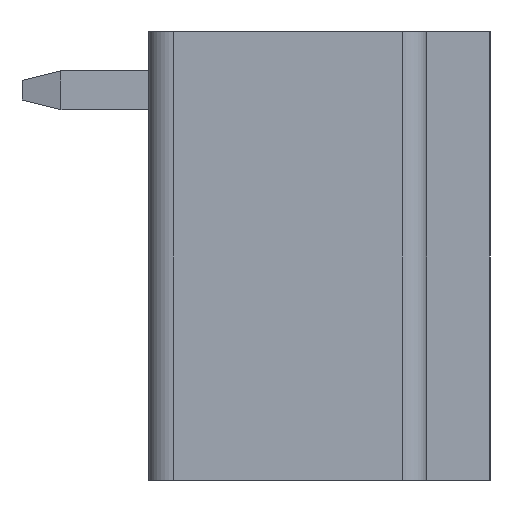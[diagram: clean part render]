
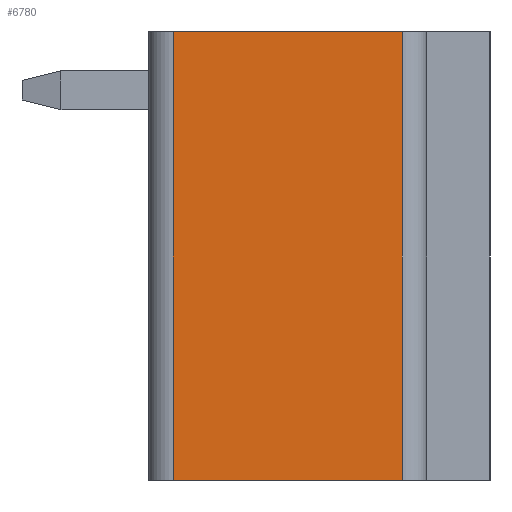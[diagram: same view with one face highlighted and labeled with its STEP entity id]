
A CAD part, left-side view. The second image highlights one B-rep face of the part: STEP entity #6780.
In plain terms, the highlighted planar face has unit normal (-1, 0, 0).
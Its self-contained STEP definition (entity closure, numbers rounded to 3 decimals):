
#6780 = ADVANCED_FACE('',(#6781),#6795,.T.);
#6781 = FACE_BOUND('',#6782,.T.);
#6782 = EDGE_LOOP('',(#6783,#6806,#6822,#6838));
#6783 = ORIENTED_EDGE('',*,*,#6784,.F.);
#6784 = EDGE_CURVE('',#6785,#6787,#6789,.T.);
#6785 = VERTEX_POINT('',#6786);
#6786 = CARTESIAN_POINT('',(-64.15,2.5,0.));
#6787 = VERTEX_POINT('',#6788);
#6788 = CARTESIAN_POINT('',(-64.15,-2.2,0.));
#6789 = SURFACE_CURVE('',#6790,(#6794),.PCURVE_S1.);
#6790 = LINE('',#6791,#6792);
#6791 = CARTESIAN_POINT('',(-64.15,2.5,0.));
#6792 = VECTOR('',#6793,1.);
#6793 = DIRECTION('',(0.,-1.,0.));
#6794 = PCURVE('',#6795,#6800);
#6795 = PLANE('',#6796);
#6796 = AXIS2_PLACEMENT_3D('',#6797,#6798,#6799);
#6797 = CARTESIAN_POINT('',(-64.15,0.15,-4.6));
#6798 = DIRECTION('',(-1.,0.,0.));
#6799 = DIRECTION('',(0.,0.,-1.));
#6800 = DEFINITIONAL_REPRESENTATION('',(#6801),#6805);
#6801 = LINE('',#6802,#6803);
#6802 = CARTESIAN_POINT('',(-4.6,-2.35));
#6803 = VECTOR('',#6804,1.);
#6804 = DIRECTION('',(0.,1.));
#6805 = ( GEOMETRIC_REPRESENTATION_CONTEXT(2) 
PARAMETRIC_REPRESENTATION_CONTEXT() REPRESENTATION_CONTEXT('2D SPACE',''
  ) );
#6806 = ORIENTED_EDGE('',*,*,#6807,.F.);
#6807 = EDGE_CURVE('',#6808,#6785,#6810,.T.);
#6808 = VERTEX_POINT('',#6809);
#6809 = CARTESIAN_POINT('',(-64.15,2.5,-9.2));
#6810 = SURFACE_CURVE('',#6811,(#6815),.PCURVE_S1.);
#6811 = LINE('',#6812,#6813);
#6812 = CARTESIAN_POINT('',(-64.15,2.5,-9.2));
#6813 = VECTOR('',#6814,1.);
#6814 = DIRECTION('',(0.,0.,1.));
#6815 = PCURVE('',#6795,#6816);
#6816 = DEFINITIONAL_REPRESENTATION('',(#6817),#6821);
#6817 = LINE('',#6818,#6819);
#6818 = CARTESIAN_POINT('',(4.6,-2.35));
#6819 = VECTOR('',#6820,1.);
#6820 = DIRECTION('',(-1.,0.));
#6821 = ( GEOMETRIC_REPRESENTATION_CONTEXT(2) 
PARAMETRIC_REPRESENTATION_CONTEXT() REPRESENTATION_CONTEXT('2D SPACE',''
  ) );
#6822 = ORIENTED_EDGE('',*,*,#6823,.F.);
#6823 = EDGE_CURVE('',#6824,#6808,#6826,.T.);
#6824 = VERTEX_POINT('',#6825);
#6825 = CARTESIAN_POINT('',(-64.15,-2.2,-9.2));
#6826 = SURFACE_CURVE('',#6827,(#6831),.PCURVE_S1.);
#6827 = LINE('',#6828,#6829);
#6828 = CARTESIAN_POINT('',(-64.15,-2.2,-9.2));
#6829 = VECTOR('',#6830,1.);
#6830 = DIRECTION('',(0.,1.,0.));
#6831 = PCURVE('',#6795,#6832);
#6832 = DEFINITIONAL_REPRESENTATION('',(#6833),#6837);
#6833 = LINE('',#6834,#6835);
#6834 = CARTESIAN_POINT('',(4.6,2.35));
#6835 = VECTOR('',#6836,1.);
#6836 = DIRECTION('',(0.,-1.));
#6837 = ( GEOMETRIC_REPRESENTATION_CONTEXT(2) 
PARAMETRIC_REPRESENTATION_CONTEXT() REPRESENTATION_CONTEXT('2D SPACE',''
  ) );
#6838 = ORIENTED_EDGE('',*,*,#6839,.T.);
#6839 = EDGE_CURVE('',#6824,#6787,#6840,.T.);
#6840 = SURFACE_CURVE('',#6841,(#6845),.PCURVE_S1.);
#6841 = LINE('',#6842,#6843);
#6842 = CARTESIAN_POINT('',(-64.15,-2.2,-9.2));
#6843 = VECTOR('',#6844,1.);
#6844 = DIRECTION('',(0.,0.,1.));
#6845 = PCURVE('',#6795,#6846);
#6846 = DEFINITIONAL_REPRESENTATION('',(#6847),#6851);
#6847 = LINE('',#6848,#6849);
#6848 = CARTESIAN_POINT('',(4.6,2.35));
#6849 = VECTOR('',#6850,1.);
#6850 = DIRECTION('',(-1.,0.));
#6851 = ( GEOMETRIC_REPRESENTATION_CONTEXT(2) 
PARAMETRIC_REPRESENTATION_CONTEXT() REPRESENTATION_CONTEXT('2D SPACE',''
  ) );
